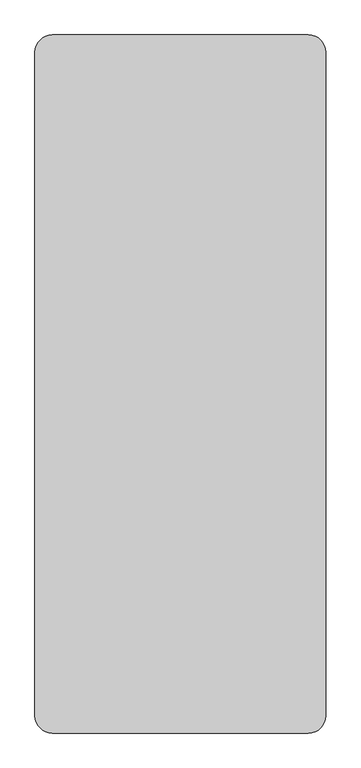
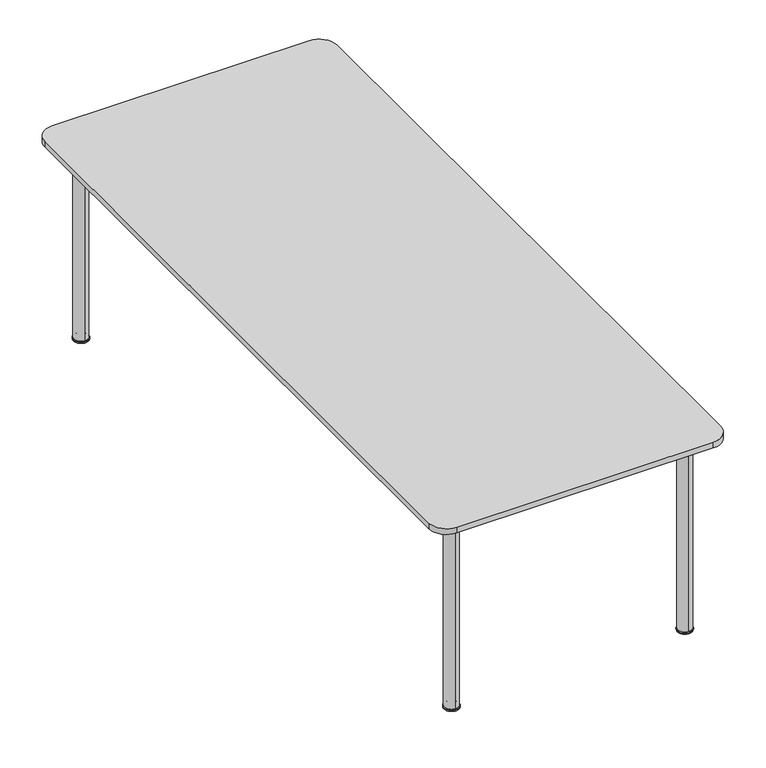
"""IFC4 building model written with IfcOpenShell, lengths in millimetres: furniture geometry, Fredericia - Plan Table - 6633 : Fredericia - Plan Table - 6633."""

from ifc_helpers import new_model, si_unit, point, frame, frame_2d, origin, place, context, project, spatial, polyline, circle_curve, ellipse_curve, trimmed, segment, composite_curve, outline, extrude, source, transform, mapped, element, save
from ifc_brep_helpers import plane_surface, cylinder_surface, revolved_surface, advanced_brep


def furniture_52b13ab5(model_context):
    return source(origin(), model_context, "Body", "SolidModel", [
        advanced_brep(
        [(399.9965931, -1099.9751431, 7.0064935), (399.9965931, -1076.0499492, 7.0064935), (399.9965931, -1123.9003371, 7.0064935), (399.9965931, -1123.4003371, 0.0), (399.9965931, -1076.5499492, 0.0), (399.9965931, -1099.9751431, 0.0), (399.9965931, -1126.4003371, 3.0), (399.9965931, -1073.5499492, 3.0), (399.9965931, -1126.4003371, 4.5064935), (399.9965931, -1073.5499492, 4.5064935)],
        [
            (0, 1),
            (1, 2, circle_curve(frame((399.9965931, -1099.9751431, 7.0064935), z_axis=(0.0, 0.0, 1.0), x_axis=(0.0, 1.0, 0.0)), 23.925194)),
            (2, 0),
            (2, 1, circle_curve(frame((399.9965931, -1099.9751431, 7.0064935), z_axis=(0.0, 0.0, 1.0), x_axis=(0.0, 1.0, 0.0)), 23.925194)),
            (3, 4, circle_curve(frame((399.9965931, -1099.9751431, 0.0), z_axis=(0.0, 0.0, -1.0), x_axis=(0.0, 1.0, 0.0)), 23.425194)),
            (4, 5),
            (5, 3),
            (4, 3, circle_curve(frame((399.9965931, -1099.9751431, 0.0), z_axis=(0.0, 0.0, -1.0), x_axis=(0.0, 1.0, 0.0)), 23.425194)),
            (6, 7, circle_curve(frame((399.9965931, -1099.9751431, 3.0), z_axis=(0.0, 0.0, -1.0), x_axis=(0.0, 1.0, 0.0)), 26.425194)),
            (7, 4, circle_curve(frame((399.9965931, -1076.5499492, 3.0), z_axis=(-1.0, 0.0, 0.0), x_axis=(0.0, 1.0, 0.0)), 3.0)),
            (3, 6, circle_curve(frame((399.9965931, -1123.4003371, 3.0), z_axis=(-1.0, 0.0, 0.0), x_axis=(0.0, -1.0, 0.0)), 3.0)),
            (7, 6, circle_curve(frame((399.9965931, -1099.9751431, 3.0), z_axis=(0.0, 0.0, -1.0), x_axis=(0.0, 1.0, 0.0)), 26.425194)),
            (8, 9, circle_curve(frame((399.9965931, -1099.9751431, 4.5064935), z_axis=(0.0, 0.0, -1.0), x_axis=(0.0, 1.0, 0.0)), 26.425194)),
            (9, 7),
            (6, 8),
            (9, 8, circle_curve(frame((399.9965931, -1099.9751431, 4.5064935), z_axis=(0.0, 0.0, -1.0), x_axis=(0.0, 1.0, 0.0)), 26.425194)),
            (1, 9, circle_curve(frame((399.9965931, -1076.0499492, 4.5064935), z_axis=(-1.0, 0.0, 0.0), x_axis=(0.0, 1.0, 0.0)), 2.5)),
            (8, 2, circle_curve(frame((399.9965931, -1123.9003371, 4.5064935), z_axis=(-1.0, 0.0, 0.0), x_axis=(0.0, -1.0, 0.0)), 2.5)),
        ],
        [
            plane_surface(frame((399.9965931, -1099.9751431, 7.0064935), z_axis=(0.0, 0.0, 1.0), x_axis=(0.0, 1.0, 0.0))),
            plane_surface(frame((399.9965931, -1099.9751431, 0.0), z_axis=(0.0, 0.0, -1.0), x_axis=(0.0, 1.0, 0.0))),
            revolved_surface(trimmed(ellipse_curve(frame((399.9965931, -1076.5499492, 3.0), z_axis=(1.0, 0.0, 0.0), x_axis=(0.0, 1.0, 0.0)), 3.0, 3.0), [point((399.9965931, -1076.5499492, 0.0))], [point((399.9965931, -1073.5499492, 3.0))], True, "CARTESIAN"), (399.9965931, -1099.9751431, 7.0064935), (0.0, 0.0, 1.0)),
            cylinder_surface(frame((399.9965931, -1099.9751431, 7.0064935), z_axis=(0.0, 0.0, 1.0), x_axis=(0.0, 1.0, 0.0)), 26.425194),
            revolved_surface(trimmed(ellipse_curve(frame((399.9965931, -1076.0499492, 4.5064935), z_axis=(1.0, 0.0, 0.0), x_axis=(0.0, 1.0, 0.0)), 2.5, 2.5), [point((399.9965931, -1073.5499492, 4.5064935))], [point((399.9965931, -1076.0499492, 7.0064935))], True, "CARTESIAN"), (399.9965931, -1099.9751431, 7.0064935), (0.0, 0.0, 1.0)),
        ],
        [
            (0, [[1, 2, 3]]),
            (0, [[-3, 4, -1]]),
            (1, [[5, 6, 7]]),
            (1, [[8, -7, -6]]),
            (2, [[9, 10, -5, 11]]),
            (2, [[12, -11, -8, -10]]),
            (3, [[13, 14, -9, 15]]),
            (3, [[16, -15, -12, -14]]),
            (4, [[-2, 17, -13, 18]]),
            (4, [[-4, -18, -16, -17]]),
        ],
    ),
        extrude(outline(composite_curve([segment(trimmed(circle_curve(frame_2d((400.0, -1099.9751431)), 24.0), [point((400.0, -1123.9751431))], [point((400.0, -1075.9751431))], False, "CARTESIAN"), True, "CONTINUOUS"), segment(trimmed(circle_curve(frame_2d((400.0, -1099.9751431)), 24.0), [point((400.0, -1075.9751431))], [point((400.0, -1123.9751431))], False, "CARTESIAN"), True, "CONTINUOUS")], self_intersect=False)), frame((0.0, 0.0, 7.0064935), z_axis=(0.0, 0.0, 1.0), x_axis=(1.0, 0.0, 0.0)), (0.0, 0.0, 1.0), 697.2),
        advanced_brep(
        [(399.9965931, 1123.9003371, 7.0064935), (399.9965931, 1076.0499492, 7.0064935), (399.9965931, 1099.9751431, 7.0064935), (399.9965931, 1099.9751431, 0.0), (399.9965931, 1076.5499492, 0.0), (399.9965931, 1123.4003371, 0.0), (399.9965931, 1073.5499492, 3.0), (399.9965931, 1126.4003371, 3.0), (399.9965931, 1073.5499492, 4.5064935), (399.9965931, 1126.4003371, 4.5064935)],
        [
            (0, 1, circle_curve(frame((399.9965931, 1099.9751431, 7.0064935), z_axis=(0.0, 0.0, 1.0), x_axis=(0.0, -1.0, 0.0)), 23.925194)),
            (1, 2),
            (2, 0),
            (1, 0, circle_curve(frame((399.9965931, 1099.9751431, 7.0064935), z_axis=(0.0, 0.0, 1.0), x_axis=(0.0, -1.0, 0.0)), 23.925194)),
            (3, 4),
            (4, 5, circle_curve(frame((399.9965931, 1099.9751431, 0.0), z_axis=(0.0, 0.0, -1.0), x_axis=(0.0, -1.0, 0.0)), 23.425194)),
            (5, 3),
            (5, 4, circle_curve(frame((399.9965931, 1099.9751431, 0.0), z_axis=(0.0, 0.0, -1.0), x_axis=(0.0, -1.0, 0.0)), 23.425194)),
            (4, 6, circle_curve(frame((399.9965931, 1076.5499492, 3.0), z_axis=(-1.0, 0.0, 0.0), x_axis=(0.0, -1.0, 0.0)), 3.0)),
            (6, 7, circle_curve(frame((399.9965931, 1099.9751431, 3.0), z_axis=(0.0, 0.0, -1.0), x_axis=(0.0, -1.0, 0.0)), 26.425194)),
            (7, 5, circle_curve(frame((399.9965931, 1123.4003371, 3.0), z_axis=(-1.0, 0.0, 0.0), x_axis=(0.0, 1.0, 0.0)), 3.0)),
            (7, 6, circle_curve(frame((399.9965931, 1099.9751431, 3.0), z_axis=(0.0, 0.0, -1.0), x_axis=(0.0, -1.0, 0.0)), 26.425194)),
            (6, 8),
            (8, 9, circle_curve(frame((399.9965931, 1099.9751431, 4.5064935), z_axis=(0.0, 0.0, -1.0), x_axis=(0.0, -1.0, 0.0)), 26.425194)),
            (9, 7),
            (9, 8, circle_curve(frame((399.9965931, 1099.9751431, 4.5064935), z_axis=(0.0, 0.0, -1.0), x_axis=(0.0, -1.0, 0.0)), 26.425194)),
            (8, 1, circle_curve(frame((399.9965931, 1076.0499492, 4.5064935), z_axis=(-1.0, 0.0, 0.0), x_axis=(0.0, -1.0, 0.0)), 2.5)),
            (0, 9, circle_curve(frame((399.9965931, 1123.9003371, 4.5064935), z_axis=(-1.0, 0.0, 0.0), x_axis=(0.0, 1.0, 0.0)), 2.5)),
        ],
        [
            plane_surface(frame((399.9965931, 1099.9751431, 7.0064935), z_axis=(0.0, 0.0, 1.0), x_axis=(0.0, -1.0, 0.0))),
            plane_surface(frame((399.9965931, 1099.9751431, 0.0), z_axis=(0.0, 0.0, -1.0), x_axis=(0.0, -1.0, 0.0))),
            revolved_surface(trimmed(ellipse_curve(frame((399.9965931, 1076.5499492, 3.0), z_axis=(1.0, 0.0, 0.0), x_axis=(0.0, -1.0, 0.0)), 3.0, 3.0), [point((399.9965931, 1073.5499492, 3.0))], [point((399.9965931, 1076.5499492, 0.0))], True, "CARTESIAN"), (399.9965931, 1099.9751431, 7.0064935), (0.0, 0.0, -1.0)),
            cylinder_surface(frame((399.9965931, 1099.9751431, 7.0064935), z_axis=(0.0, 0.0, -1.0), x_axis=(0.0, -1.0, 0.0)), 26.425194),
            revolved_surface(trimmed(ellipse_curve(frame((399.9965931, 1076.0499492, 4.5064935), z_axis=(1.0, 0.0, 0.0), x_axis=(0.0, -1.0, 0.0)), 2.5, 2.5), [point((399.9965931, 1076.0499492, 7.0064935))], [point((399.9965931, 1073.5499492, 4.5064935))], True, "CARTESIAN"), (399.9965931, 1099.9751431, 7.0064935), (0.0, 0.0, -1.0)),
        ],
        [
            (0, [[1, 2, 3]]),
            (0, [[4, -3, -2]]),
            (1, [[5, 6, 7]]),
            (1, [[-7, 8, -5]]),
            (2, [[-6, 9, 10, 11]]),
            (2, [[-8, -11, 12, -9]]),
            (3, [[-10, 13, 14, 15]]),
            (3, [[-12, -15, 16, -13]]),
            (4, [[-14, 17, -1, 18]]),
            (4, [[-16, -18, -4, -17]]),
        ],
    ),
        extrude(outline(composite_curve([segment(trimmed(circle_curve(frame_2d((400.0, 1099.9751431)), 24.0), [point((400.0, 1123.9751431))], [point((400.0, 1075.9751431))], False, "CARTESIAN"), True, "CONTINUOUS"), segment(trimmed(circle_curve(frame_2d((400.0, 1099.9751431)), 24.0), [point((400.0, 1075.9751431))], [point((400.0, 1123.9751431))], False, "CARTESIAN"), True, "CONTINUOUS")], self_intersect=False)), frame((0.0, 0.0, 7.0064935), z_axis=(0.0, 0.0, 1.0), x_axis=(1.0, 0.0, 0.0)), (0.0, 0.0, 1.0), 697.2),
        extrude(outline(composite_curve([segment(polyline([(691.7064935, 387.5), (664.4807411, 387.5)]), True, "CONTINUOUS"), segment(trimmed(circle_curve(frame_2d((664.4807411, 400.0)), 12.5), [point((664.4807411, 387.5))], [point((664.4807411, 412.5))], False, "CARTESIAN"), True, "CONTINUOUS"), segment(polyline([(664.4807411, 412.5), (691.7064935, 412.5)]), True, "CONTINUOUS"), segment(trimmed(circle_curve(frame_2d((691.7064935, 400.0)), 12.5), [point((691.7064935, 412.5))], [point((691.7064935, 387.5))], False, "CARTESIAN"), True, "CONTINUOUS")], self_intersect=False)), frame((0.0, -1082.5089522, 0.0), z_axis=(0.0, 1.0, 0.0), x_axis=(0.0, 0.0, 1.0)), (0.0, 0.0, 1.0), 2164.0089522),
        advanced_brep(
        [(-400.0, -1123.9003371, 7.0064935), (-400.0, -1076.0499492, 7.0064935), (-400.0, -1099.9751431, 7.0064935), (-400.0, -1099.9751431, 0.0), (-400.0, -1076.5499492, 0.0), (-400.0, -1123.4003371, 0.0), (-400.0, -1073.5499492, 3.0), (-400.0, -1126.4003371, 3.0), (-400.0, -1073.5499492, 4.5064935), (-400.0, -1126.4003371, 4.5064935)],
        [
            (0, 1, circle_curve(frame((-400.0, -1099.9751431, 7.0064935), z_axis=(0.0, 0.0, 1.0), x_axis=(0.0, 1.0, 0.0)), 23.925194)),
            (1, 2),
            (2, 0),
            (1, 0, circle_curve(frame((-400.0, -1099.9751431, 7.0064935), z_axis=(0.0, 0.0, 1.0), x_axis=(0.0, 1.0, 0.0)), 23.925194)),
            (3, 4),
            (4, 5, circle_curve(frame((-400.0, -1099.9751431, 0.0), z_axis=(0.0, 0.0, -1.0), x_axis=(0.0, 1.0, 0.0)), 23.425194)),
            (5, 3),
            (5, 4, circle_curve(frame((-400.0, -1099.9751431, 0.0), z_axis=(0.0, 0.0, -1.0), x_axis=(0.0, 1.0, 0.0)), 23.425194)),
            (4, 6, circle_curve(frame((-400.0, -1076.5499492, 3.0), z_axis=(1.0, 0.0, 0.0), x_axis=(0.0, 1.0, 0.0)), 3.0)),
            (6, 7, circle_curve(frame((-400.0, -1099.9751431, 3.0), z_axis=(0.0, 0.0, -1.0), x_axis=(0.0, 1.0, 0.0)), 26.425194)),
            (7, 5, circle_curve(frame((-400.0, -1123.4003371, 3.0), z_axis=(1.0, 0.0, 0.0), x_axis=(0.0, -1.0, 0.0)), 3.0)),
            (7, 6, circle_curve(frame((-400.0, -1099.9751431, 3.0), z_axis=(0.0, 0.0, -1.0), x_axis=(0.0, 1.0, 0.0)), 26.425194)),
            (6, 8),
            (8, 9, circle_curve(frame((-400.0, -1099.9751431, 4.5064935), z_axis=(0.0, 0.0, -1.0), x_axis=(0.0, 1.0, 0.0)), 26.425194)),
            (9, 7),
            (9, 8, circle_curve(frame((-400.0, -1099.9751431, 4.5064935), z_axis=(0.0, 0.0, -1.0), x_axis=(0.0, 1.0, 0.0)), 26.425194)),
            (8, 1, circle_curve(frame((-400.0, -1076.0499492, 4.5064935), z_axis=(1.0, 0.0, 0.0), x_axis=(0.0, 1.0, 0.0)), 2.5)),
            (0, 9, circle_curve(frame((-400.0, -1123.9003371, 4.5064935), z_axis=(1.0, 0.0, 0.0), x_axis=(0.0, -1.0, 0.0)), 2.5)),
        ],
        [
            plane_surface(frame((-400.0, -1099.9751431, 7.0064935), z_axis=(0.0, 0.0, 1.0), x_axis=(0.0, 1.0, 0.0))),
            plane_surface(frame((-400.0, -1099.9751431, 0.0), z_axis=(0.0, 0.0, -1.0), x_axis=(0.0, 1.0, 0.0))),
            revolved_surface(trimmed(ellipse_curve(frame((-400.0, -1076.5499492, 3.0), z_axis=(-1.0, 0.0, 0.0), x_axis=(0.0, 1.0, 0.0)), 3.0, 3.0), [point((-400.0, -1073.5499492, 3.0))], [point((-400.0, -1076.5499492, 0.0))], True, "CARTESIAN"), (-400.0, -1099.9751431, 7.0064935), (0.0, 0.0, -1.0)),
            cylinder_surface(frame((-400.0, -1099.9751431, 7.0064935), z_axis=(0.0, 0.0, -1.0), x_axis=(0.0, 1.0, 0.0)), 26.425194),
            revolved_surface(trimmed(ellipse_curve(frame((-400.0, -1076.0499492, 4.5064935), z_axis=(-1.0, 0.0, 0.0), x_axis=(0.0, 1.0, 0.0)), 2.5, 2.5), [point((-400.0, -1076.0499492, 7.0064935))], [point((-400.0, -1073.5499492, 4.5064935))], True, "CARTESIAN"), (-400.0, -1099.9751431, 7.0064935), (0.0, 0.0, -1.0)),
        ],
        [
            (0, [[1, 2, 3]]),
            (0, [[4, -3, -2]]),
            (1, [[5, 6, 7]]),
            (1, [[-7, 8, -5]]),
            (2, [[-6, 9, 10, 11]]),
            (2, [[-8, -11, 12, -9]]),
            (3, [[-10, 13, 14, 15]]),
            (3, [[-12, -15, 16, -13]]),
            (4, [[-14, 17, -1, 18]]),
            (4, [[-16, -18, -4, -17]]),
        ],
    ),
        extrude(outline(composite_curve([segment(trimmed(circle_curve(frame_2d((-400.0034069, -1099.9751431)), 24.0), [point((-400.0034069, -1123.9751431))], [point((-400.0034069, -1075.9751431))], False, "CARTESIAN"), True, "CONTINUOUS"), segment(trimmed(circle_curve(frame_2d((-400.0034069, -1099.9751431)), 24.0), [point((-400.0034069, -1075.9751431))], [point((-400.0034069, -1123.9751431))], False, "CARTESIAN"), True, "CONTINUOUS")], self_intersect=False)), frame((0.0, 0.0, 7.0064935), z_axis=(0.0, 0.0, 1.0), x_axis=(1.0, 0.0, 0.0)), (0.0, 0.0, 1.0), 697.2),
        advanced_brep(
        [(-400.0, 1099.9751431, 7.0064935), (-400.0, 1076.0499492, 7.0064935), (-400.0, 1123.9003371, 7.0064935), (-400.0, 1123.4003371, 0.0), (-400.0, 1076.5499492, 0.0), (-400.0, 1099.9751431, 0.0), (-400.0, 1126.4003371, 3.0), (-400.0, 1073.5499492, 3.0), (-400.0, 1126.4003371, 4.5064935), (-400.0, 1073.5499492, 4.5064935)],
        [
            (0, 1),
            (1, 2, circle_curve(frame((-400.0, 1099.9751431, 7.0064935), z_axis=(0.0, 0.0, 1.0), x_axis=(0.0, -1.0, 0.0)), 23.925194)),
            (2, 0),
            (2, 1, circle_curve(frame((-400.0, 1099.9751431, 7.0064935), z_axis=(0.0, 0.0, 1.0), x_axis=(0.0, -1.0, 0.0)), 23.925194)),
            (3, 4, circle_curve(frame((-400.0, 1099.9751431, 0.0), z_axis=(0.0, 0.0, -1.0), x_axis=(0.0, -1.0, 0.0)), 23.425194)),
            (4, 5),
            (5, 3),
            (4, 3, circle_curve(frame((-400.0, 1099.9751431, 0.0), z_axis=(0.0, 0.0, -1.0), x_axis=(0.0, -1.0, 0.0)), 23.425194)),
            (6, 7, circle_curve(frame((-400.0, 1099.9751431, 3.0), z_axis=(0.0, 0.0, -1.0), x_axis=(0.0, -1.0, 0.0)), 26.425194)),
            (7, 4, circle_curve(frame((-400.0, 1076.5499492, 3.0), z_axis=(1.0, 0.0, 0.0), x_axis=(0.0, -1.0, 0.0)), 3.0)),
            (3, 6, circle_curve(frame((-400.0, 1123.4003371, 3.0), z_axis=(1.0, 0.0, 0.0), x_axis=(0.0, 1.0, 0.0)), 3.0)),
            (7, 6, circle_curve(frame((-400.0, 1099.9751431, 3.0), z_axis=(0.0, 0.0, -1.0), x_axis=(0.0, -1.0, 0.0)), 26.425194)),
            (8, 9, circle_curve(frame((-400.0, 1099.9751431, 4.5064935), z_axis=(0.0, 0.0, -1.0), x_axis=(0.0, -1.0, 0.0)), 26.425194)),
            (9, 7),
            (6, 8),
            (9, 8, circle_curve(frame((-400.0, 1099.9751431, 4.5064935), z_axis=(0.0, 0.0, -1.0), x_axis=(0.0, -1.0, 0.0)), 26.425194)),
            (1, 9, circle_curve(frame((-400.0, 1076.0499492, 4.5064935), z_axis=(1.0, 0.0, 0.0), x_axis=(0.0, -1.0, 0.0)), 2.5)),
            (8, 2, circle_curve(frame((-400.0, 1123.9003371, 4.5064935), z_axis=(1.0, 0.0, 0.0), x_axis=(0.0, 1.0, 0.0)), 2.5)),
        ],
        [
            plane_surface(frame((-400.0, 1099.9751431, 7.0064935), z_axis=(0.0, 0.0, 1.0), x_axis=(0.0, -1.0, 0.0))),
            plane_surface(frame((-400.0, 1099.9751431, 0.0), z_axis=(0.0, 0.0, -1.0), x_axis=(0.0, -1.0, 0.0))),
            revolved_surface(trimmed(ellipse_curve(frame((-400.0, 1076.5499492, 3.0), z_axis=(-1.0, 0.0, 0.0), x_axis=(0.0, -1.0, 0.0)), 3.0, 3.0), [point((-400.0, 1076.5499492, 0.0))], [point((-400.0, 1073.5499492, 3.0))], True, "CARTESIAN"), (-400.0, 1099.9751431, 7.0064935), (0.0, 0.0, 1.0)),
            cylinder_surface(frame((-400.0, 1099.9751431, 7.0064935), z_axis=(0.0, 0.0, 1.0), x_axis=(0.0, -1.0, 0.0)), 26.425194),
            revolved_surface(trimmed(ellipse_curve(frame((-400.0, 1076.0499492, 4.5064935), z_axis=(-1.0, 0.0, 0.0), x_axis=(0.0, -1.0, 0.0)), 2.5, 2.5), [point((-400.0, 1073.5499492, 4.5064935))], [point((-400.0, 1076.0499492, 7.0064935))], True, "CARTESIAN"), (-400.0, 1099.9751431, 7.0064935), (0.0, 0.0, 1.0)),
        ],
        [
            (0, [[1, 2, 3]]),
            (0, [[-3, 4, -1]]),
            (1, [[5, 6, 7]]),
            (1, [[8, -7, -6]]),
            (2, [[9, 10, -5, 11]]),
            (2, [[12, -11, -8, -10]]),
            (3, [[13, 14, -9, 15]]),
            (3, [[16, -15, -12, -14]]),
            (4, [[-2, 17, -13, 18]]),
            (4, [[-4, -18, -16, -17]]),
        ],
    ),
        extrude(outline(composite_curve([segment(trimmed(circle_curve(frame_2d((-400.0034069, 1099.9751431)), 24.0), [point((-400.0034069, 1123.9751431))], [point((-400.0034069, 1075.9751431))], False, "CARTESIAN"), True, "CONTINUOUS"), segment(trimmed(circle_curve(frame_2d((-400.0034069, 1099.9751431)), 24.0), [point((-400.0034069, 1075.9751431))], [point((-400.0034069, 1123.9751431))], False, "CARTESIAN"), True, "CONTINUOUS")], self_intersect=False)), frame((0.0, 0.0, 7.0064935), z_axis=(0.0, 0.0, 1.0), x_axis=(1.0, 0.0, 0.0)), (0.0, 0.0, 1.0), 697.2),
        extrude(outline(composite_curve([segment(trimmed(circle_curve(frame_2d((691.7064935, -400.0)), 12.5), [point((691.7064935, -387.5))], [point((691.7064935, -412.5))], False, "CARTESIAN"), True, "CONTINUOUS"), segment(polyline([(691.7064935, -412.5), (664.4807411, -412.5)]), True, "CONTINUOUS"), segment(trimmed(circle_curve(frame_2d((664.4807411, -400.0)), 12.5), [point((664.4807411, -412.5))], [point((664.4807411, -387.5))], False, "CARTESIAN"), True, "CONTINUOUS"), segment(polyline([(664.4807411, -387.5), (691.7064935, -387.5)]), True, "CONTINUOUS")], self_intersect=False)), frame((0.0, -1082.5089522, 0.0), z_axis=(0.0, 1.0, 0.0), x_axis=(0.0, 0.0, 1.0)), (0.0, 0.0, 1.0), 2164.0089522),
        extrude(outline(composite_curve([segment(polyline([(-1087.5, 691.7064935), (-1087.5, 664.4807411)]), True, "CONTINUOUS"), segment(trimmed(circle_curve(frame_2d((-1100.0, 664.4807411)), 12.5), [point((-1087.5, 664.4807411))], [point((-1112.5, 664.4807411))], False, "CARTESIAN"), True, "CONTINUOUS"), segment(polyline([(-1112.5, 664.4807411), (-1112.5, 691.7064935)]), True, "CONTINUOUS"), segment(trimmed(circle_curve(frame_2d((-1100.0, 691.7064935)), 12.5), [point((-1112.5, 691.7064935))], [point((-1087.5, 691.7064935))], False, "CARTESIAN"), True, "CONTINUOUS")], self_intersect=False)), frame((-382.5, 0.0, 0.0), z_axis=(1.0, 0.0, 0.0), x_axis=(0.0, 1.0, 0.0)), (0.0, 0.0, 1.0), 766.1194551),
        extrude(outline(composite_curve([segment(trimmed(circle_curve(frame_2d((1100.0, 691.7064935)), 12.5), [point((1087.5, 691.7064935))], [point((1112.5, 691.7064935))], False, "CARTESIAN"), True, "CONTINUOUS"), segment(polyline([(1112.5, 691.7064935), (1112.5, 664.4807411)]), True, "CONTINUOUS"), segment(trimmed(circle_curve(frame_2d((1100.0, 664.4807411)), 12.5), [point((1112.5, 664.4807411))], [point((1087.5, 664.4807411))], False, "CARTESIAN"), True, "CONTINUOUS"), segment(polyline([(1087.5, 664.4807411), (1087.5, 691.7064935)]), True, "CONTINUOUS")], self_intersect=False)), frame((-382.5, 0.0, 0.0), z_axis=(1.0, 0.0, 0.0), x_axis=(0.0, 1.0, 0.0)), (0.0, 0.0, 1.0), 766.1194551),
        extrude(outline(composite_curve([segment(polyline([(440.0, -1200.0), (-440.0, -1200.0)]), True, "CONTINUOUS"), segment(trimmed(circle_curve(frame_2d((-440.0, -1140.0)), 60.0), [point((-440.0, -1200.0))], [point((-500.0, -1140.0))], False, "CARTESIAN"), True, "CONTINUOUS"), segment(polyline([(-500.0, -1140.0), (-500.0, 1140.0)]), True, "CONTINUOUS"), segment(trimmed(circle_curve(frame_2d((-440.0, 1140.0)), 60.0), [point((-500.0, 1140.0))], [point((-440.0, 1200.0))], False, "CARTESIAN"), True, "CONTINUOUS"), segment(polyline([(-440.0, 1200.0), (440.0, 1200.0)]), True, "CONTINUOUS"), segment(trimmed(circle_curve(frame_2d((440.0, 1140.0)), 60.0), [point((440.0, 1200.0))], [point((500.0, 1140.0))], False, "CARTESIAN"), True, "CONTINUOUS"), segment(polyline([(500.0, 1140.0), (500.0, -1140.0)]), True, "CONTINUOUS"), segment(trimmed(circle_curve(frame_2d((440.0, -1140.0)), 60.0), [point((500.0, -1140.0))], [point((440.0, -1200.0))], False, "CARTESIAN"), True, "CONTINUOUS")], self_intersect=False)), frame((0.0, 0.0, 704.2064935), z_axis=(0.0, 0.0, 1.0), x_axis=(1.0, 0.0, 0.0)), (0.0, 0.0, 1.0), 20.8),
    ])


if __name__ == "__main__":
    model = new_model("IFC4")
    model_context = context("Model", 3, world=origin())
    ifc_project = project(units=[si_unit("LENGTHUNIT", "METRE", prefix="MILLI")], contexts=[model_context])
    site = spatial("IfcSite", under=ifc_project)
    building = spatial("IfcBuilding", under=site)
    placement = place(None, origin())
    furniture_shape = furniture_52b13ab5(model_context)
    element("IfcFurniture", 1, ObjectType="Fredericia - Plan Table - 6633 : Fredericia - Plan Table - 6633", at=placement, inside=building, context=model_context, shape_type="MappedRepresentation", body=[
        mapped(furniture_shape, transform((0.0, 0.0, 0.0), x_axis=(1.0, 0.0, 0.0), y_axis=(0.0, 1.0, 0.0), z_axis=(0.0, 0.0, 1.0))),
    ])
    save(model, "model.ifc")
